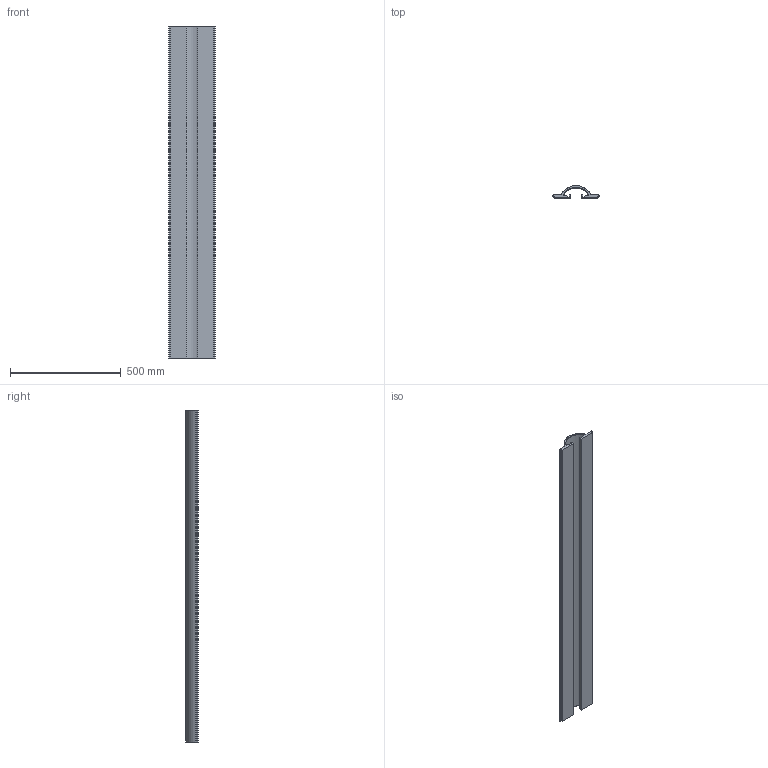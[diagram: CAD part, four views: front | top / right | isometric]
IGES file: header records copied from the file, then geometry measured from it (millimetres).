
Start section: SolidWorks IGES file using analytic representation for surfaces
Global section: file name: \\USINE\Dimitri\CATALOGUE SEDAP\Gamme Sedap\7000 Dooble 50\7000.IGS; native system: SolidWorks 2016; preprocessor: SolidWorks 2016; author: Dimitri; date: 171012.144417; units: millimetre
Bounding box: 210 x 55 x 1500 mm (x, y, z)
Surface area: 1041082 mm2 (no closed solid volume)
Topology: 0 solids, 0 shells, 28 faces, 280 edges, 280 vertices
Faces by surface type: bspline 26, revolution 2
